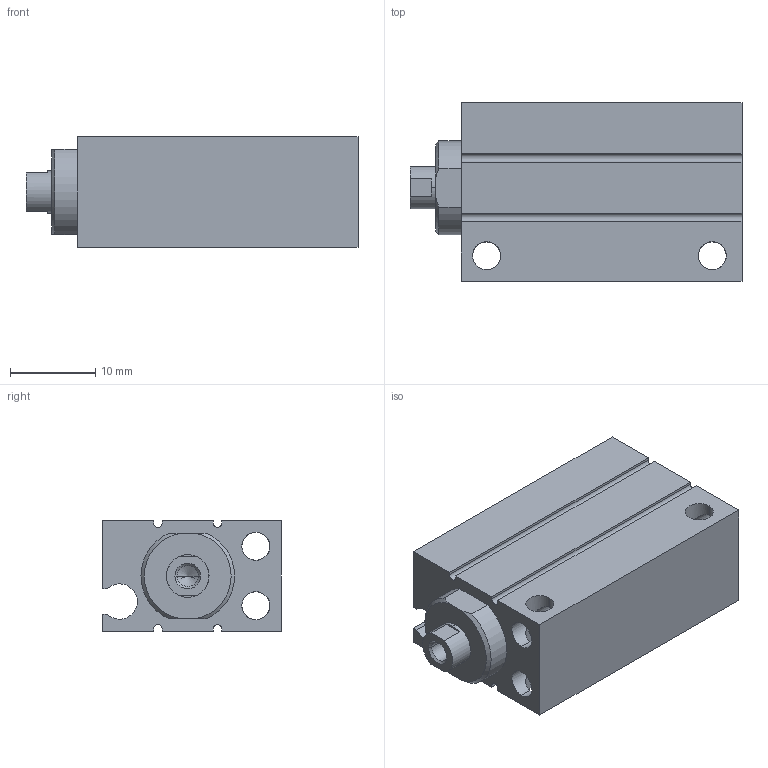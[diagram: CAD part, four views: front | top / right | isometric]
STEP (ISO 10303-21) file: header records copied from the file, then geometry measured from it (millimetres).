
FILE_DESCRIPTION (( 'STEP AP203' ), '1' );
FILE_NAME ('CLJB8-20.STEP', '2020-07-30T18:45:38', ( '' ), ( '' ), 'SwSTEP 2.0', 'SolidWorks 2019', '' );
FILE_SCHEMA (( 'CONFIG_CONTROL_DESIGN' ));
Length unit declared in the file: millimetre
Products named in the file (1): CLJB8-20
Bounding box: 39 x 21 x 13 mm (x, y, z)
Volume: 7420.1 mm3; surface area: 5390.1 mm2
Topology: 2 solids, 2 shells, 96 faces, 252 edges, 153 vertices
Faces by surface type: cylinder 49, plane 33, cone 14
Entity records: 2995 total; most frequent: CARTESIAN_POINT 604, ORIENTED_EDGE 492, DIRECTION 482, EDGE_CURVE 246, AXIS2_PLACEMENT_3D 175, VERTEX_POINT 153, LINE 132, VECTOR 132
